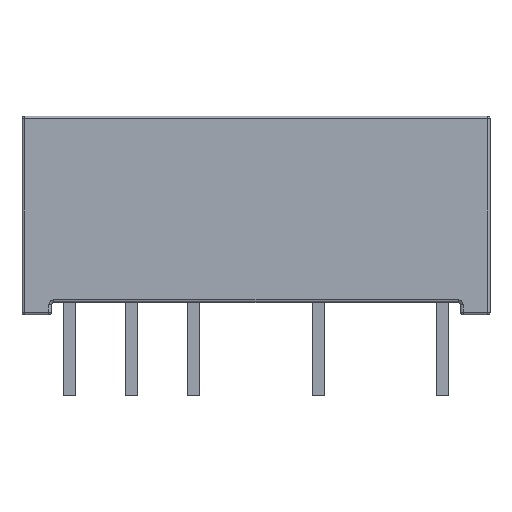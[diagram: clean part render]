
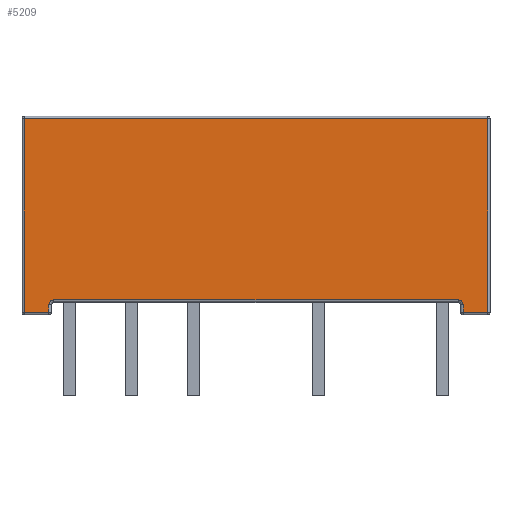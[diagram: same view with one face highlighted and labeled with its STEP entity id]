
A CAD part, top view. The second image highlights one B-rep face of the part: STEP entity #5209.
In plain terms, the highlighted planar face has unit normal (0, 0, 1).
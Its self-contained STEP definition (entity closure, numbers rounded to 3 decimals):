
#5177 = ORIENTED_EDGE ( 'NONE', *, *, #5178, .T. ) ;
#5178 = EDGE_CURVE ( 'NONE', #5264, #5179, #14557, .T. ) ;
#5179 = VERTEX_POINT ( 'NONE', #14538 ) ;
#5180 = ORIENTED_EDGE ( 'NONE', *, *, #5181, .T. ) ;
#5181 = EDGE_CURVE ( 'NONE', #5179, #5214, #14513, .T. ) ;
#5186 = ORIENTED_EDGE ( 'NONE', *, *, #5187, .T. ) ;
#5187 = EDGE_CURVE ( 'NONE', #5213, #5215, #14575, .T. ) ;
#5188 = ORIENTED_EDGE ( 'NONE', *, *, #5189, .F. ) ;
#5189 = EDGE_CURVE ( 'NONE', #5190, #5215, #14569, .T. ) ;
#5190 = VERTEX_POINT ( 'NONE', #14560 ) ;
#5191 = ORIENTED_EDGE ( 'NONE', *, *, #5192, .T. ) ;
#5192 = EDGE_CURVE ( 'NONE', #5190, #5193, #14671, .T. ) ;
#5193 = VERTEX_POINT ( 'NONE', #14662 ) ;
#5194 = ORIENTED_EDGE ( 'NONE', *, *, #5195, .T. ) ;
#5195 = EDGE_CURVE ( 'NONE', #5193, #5196, #14655, .T. ) ;
#5196 = VERTEX_POINT ( 'NONE', #14647 ) ;
#5197 = ORIENTED_EDGE ( 'NONE', *, *, #5198, .T. ) ;
#5198 = EDGE_CURVE ( 'NONE', #5196, #5258, #14645, .T. ) ;
#5209 = ADVANCED_FACE ( 'NONE', ( #14615 ), #14696, .F. ) ;
#5210 = EDGE_LOOP ( 'NONE', ( #5211, #5186, #5188, #5191, #5194, #5197, #5259, #5262, #5177, #5180 ) ) ;
#5211 = ORIENTED_EDGE ( 'NONE', *, *, #5212, .F. ) ;
#5212 = EDGE_CURVE ( 'NONE', #5213, #5214, #14695, .T. ) ;
#5213 = VERTEX_POINT ( 'NONE', #14680 ) ;
#5214 = VERTEX_POINT ( 'NONE', #14678 ) ;
#5215 = VERTEX_POINT ( 'NONE', #14677 ) ;
#5258 = VERTEX_POINT ( 'NONE', #15002 ) ;
#5259 = ORIENTED_EDGE ( 'NONE', *, *, #5260, .T. ) ;
#5260 = EDGE_CURVE ( 'NONE', #5258, #5261, #14996, .T. ) ;
#5261 = VERTEX_POINT ( 'NONE', #14988 ) ;
#5262 = ORIENTED_EDGE ( 'NONE', *, *, #5263, .T. ) ;
#5263 = EDGE_CURVE ( 'NONE', #5261, #5264, #14981, .T. ) ;
#5264 = VERTEX_POINT ( 'NONE', #14976 ) ;
#14508 = DIRECTION ( 'NONE',  ( 0., 1., 0. ) ) ;
#14509 = VECTOR ( 'NONE', #14508, 1000. ) ;
#14511 = CARTESIAN_POINT ( 'NONE',  ( -8.45, 7.592, 2.4 ) ) ;
#14513 = LINE ( 'NONE', #14511, #14509 ) ;
#14538 = CARTESIAN_POINT ( 'NONE',  ( -8.45, -0.408, 2.4 ) ) ;
#14540 = DIRECTION ( 'NONE',  ( 1., 0., 0. ) ) ;
#14541 = VECTOR ( 'NONE', #14540, 1000. ) ;
#14542 = CARTESIAN_POINT ( 'NONE',  ( -8.35, -0.408, 2.4 ) ) ;
#14557 = LINE ( 'NONE', #14542, #14541 ) ;
#14560 = CARTESIAN_POINT ( 'NONE',  ( 8.45, -0.1, 2.4 ) ) ;
#14563 = DIRECTION ( 'NONE',  ( -1., 0., 0. ) ) ;
#14565 = DIRECTION ( 'NONE',  ( 0., 0., 1. ) ) ;
#14567 = CARTESIAN_POINT ( 'NONE',  ( 8.25, -0.1, 2.4 ) ) ;
#14568 = AXIS2_PLACEMENT_3D ( 'NONE', #14567, #14565, #14563 ) ;
#14569 = CIRCLE ( 'NONE', #14568, 0.2 ) ;
#14571 = DIRECTION ( 'NONE',  ( 1., 0., 0. ) ) ;
#14572 = VECTOR ( 'NONE', #14571, 1000. ) ;
#14573 = CARTESIAN_POINT ( 'NONE',  ( 9.55, 0.1, 2.4 ) ) ;
#14575 = LINE ( 'NONE', #14573, #14572 ) ;
#14615 = FACE_OUTER_BOUND ( 'NONE', #5210, .T. ) ;
#14642 = DIRECTION ( 'NONE',  ( 0., 1., 0. ) ) ;
#14643 = VECTOR ( 'NONE', #14642, 1000. ) ;
#14644 = CARTESIAN_POINT ( 'NONE',  ( 9.45, 7.592, 2.4 ) ) ;
#14645 = LINE ( 'NONE', #14644, #14643 ) ;
#14647 = CARTESIAN_POINT ( 'NONE',  ( 9.45, -0.408, 2.4 ) ) ;
#14649 = DIRECTION ( 'NONE',  ( 1., 0., 0. ) ) ;
#14651 = VECTOR ( 'NONE', #14649, 1000. ) ;
#14653 = CARTESIAN_POINT ( 'NONE',  ( 9.55, -0.408, 2.4 ) ) ;
#14655 = LINE ( 'NONE', #14653, #14651 ) ;
#14662 = CARTESIAN_POINT ( 'NONE',  ( 8.45, -0.408, 2.4 ) ) ;
#14665 = DIRECTION ( 'NONE',  ( 0., -1., 0. ) ) ;
#14667 = VECTOR ( 'NONE', #14665, 1000. ) ;
#14669 = CARTESIAN_POINT ( 'NONE',  ( 8.45, -0.508, 2.4 ) ) ;
#14671 = LINE ( 'NONE', #14669, #14667 ) ;
#14677 = CARTESIAN_POINT ( 'NONE',  ( 8.25, 0.1, 2.4 ) ) ;
#14678 = CARTESIAN_POINT ( 'NONE',  ( -8.45, -0.1, 2.4 ) ) ;
#14680 = CARTESIAN_POINT ( 'NONE',  ( -8.25, 0.1, 2.4 ) ) ;
#14682 = DIRECTION ( 'NONE',  ( -1., 0., 0. ) ) ;
#14685 = DIRECTION ( 'NONE',  ( 0., 0., 1. ) ) ;
#14687 = CARTESIAN_POINT ( 'NONE',  ( -8.25, -0.1, 2.4 ) ) ;
#14688 = AXIS2_PLACEMENT_3D ( 'NONE', #14687, #14685, #14682 ) ;
#14690 = DIRECTION ( 'NONE',  ( -1., 0., 0. ) ) ;
#14691 = DIRECTION ( 'NONE',  ( 0., 0., -1. ) ) ;
#14693 = CARTESIAN_POINT ( 'NONE',  ( 9.55, 7.592, 2.4 ) ) ;
#14694 = AXIS2_PLACEMENT_3D ( 'NONE', #14693, #14691, #14690 ) ;
#14695 = CIRCLE ( 'NONE', #14688, 0.2 ) ;
#14696 = PLANE ( 'NONE',  #14694 ) ;
#14976 = CARTESIAN_POINT ( 'NONE',  ( -9.45, -0.408, 2.4 ) ) ;
#14978 = DIRECTION ( 'NONE',  ( 0., -1., 0. ) ) ;
#14979 = VECTOR ( 'NONE', #14978, 1000. ) ;
#14980 = CARTESIAN_POINT ( 'NONE',  ( -9.45, 7.592, 2.4 ) ) ;
#14981 = LINE ( 'NONE', #14980, #14979 ) ;
#14988 = CARTESIAN_POINT ( 'NONE',  ( -9.45, 7.492, 2.4 ) ) ;
#14991 = DIRECTION ( 'NONE',  ( -1., 0., 0. ) ) ;
#14993 = VECTOR ( 'NONE', #14991, 1000. ) ;
#14995 = CARTESIAN_POINT ( 'NONE',  ( -9.55, 7.492, 2.4 ) ) ;
#14996 = LINE ( 'NONE', #14995, #14993 ) ;
#15002 = CARTESIAN_POINT ( 'NONE',  ( 9.45, 7.492, 2.4 ) ) ;
